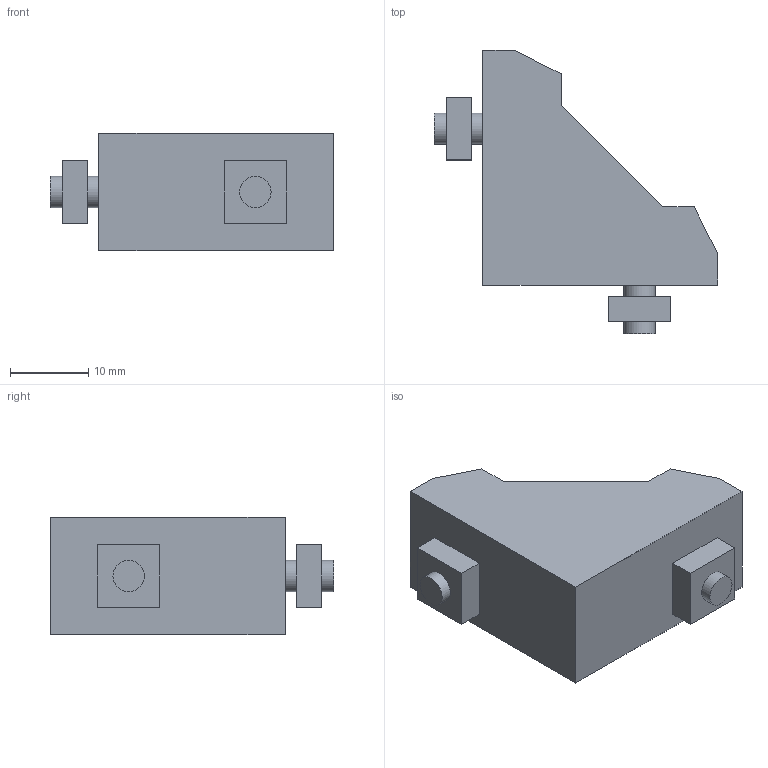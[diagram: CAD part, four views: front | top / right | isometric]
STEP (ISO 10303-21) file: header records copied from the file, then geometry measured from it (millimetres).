
FILE_DESCRIPTION((''),'2;1');
FILE_NAME('C:\Documents and Settings\古川典政\My Documents\Inventor\HP用\MasterData\BRACKET\M4\ABLD-20-4.stp','2008-07-30T14:00:59',('ÐT'),(''),'Autodesk Inventor 2008','Autodesk Inventor 2008','');
FILE_SCHEMA(('AUTOMOTIVE_DESIGN { 1 0 10303 214 1 1 1 1 }'));
Length unit declared in the file: millimetre
Products named in the file (6): ABLD-20-4; ABLD-20-41; ABLD-20-42; ABLD-20-43; ABLD-20-44; ABLD-20-45
Assembly tree (5 placements, depth 2):
  ABLD-20-4
    ABLD-20-41
    ABLD-20-42
    ABLD-20-43
    ABLD-20-44
    ABLD-20-45
Bounding box: 36.2 x 36.2 x 15 mm (x, y, z)
Volume: 5671.8 mm3; surface area: 5020.5 mm2
Topology: 5 solids, 5 shells, 64 faces, 146 edges, 98 vertices
Faces by surface type: plane 54, cylinder 6, bspline 4
Full cylindrical faces by diameter (mm): 4 x2, 4.3 x2, 10 x2
Entity records: 1922 total; most frequent: CARTESIAN_POINT 365, DIRECTION 292, ORIENTED_EDGE 260, EDGE_CURVE 130, VECTOR 110, LINE 110, VERTEX_POINT 92, AXIS2_PLACEMENT_3D 91
